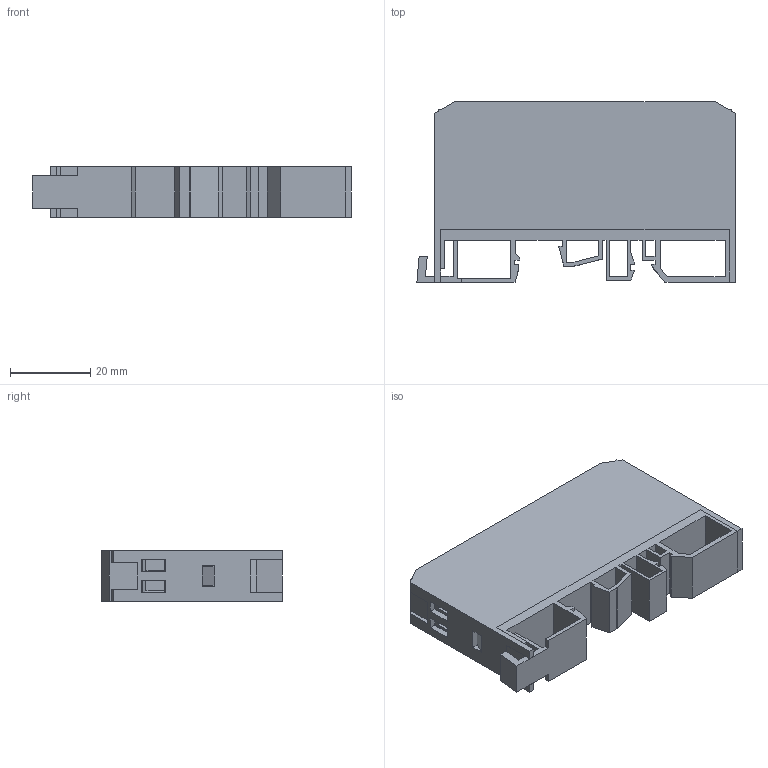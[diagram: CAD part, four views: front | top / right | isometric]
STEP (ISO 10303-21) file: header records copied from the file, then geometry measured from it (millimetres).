
FILE_DESCRIPTION(('SolidDesigner STEP Export'),'2;1');
FILE_NAME('2942962.stp','2014-03-26T10:37:38',(''),(''),'Creo Elements/Direct Modeling STEP processor for AP214 (Solid Model)','Creo Elements/Direct Modeling 18.1 06-May-2012 (C) Parametric Technology GmbH','');
FILE_SCHEMA(('AUTOMOTIVE_DESIGN { 1 0 10303 214 1 1 1 1 }'));
Length unit declared in the file: millimetre
Products named in the file (5): mkds_3-2_H.Select; EMG_12_UK_FUSS_75MM_H.Select; EMG_12_GEH._75MM_H.Select; EMG_12-LG_H.Select; 2942962
Assembly tree (5 placements, depth 3):
  2942962
    EMG_12-LG_H.Select
      EMG_12_GEH._75MM_H.Select
      EMG_12_UK_FUSS_75MM_H.Select
    mkds_3-2_H.Select  x2
Bounding box: 79.44 x 45 x 12.5 mm (x, y, z)
Volume: 14061.5 mm3; surface area: 23588 mm2
Topology: 4 solids, 4 shells, 402 faces, 1141 edges, 762 vertices
Faces by surface type: plane 354, cylinder 48
Entity records: 10667 total; most frequent: ORIENTED_EDGE 1786, CARTESIAN_POINT 1736, DIRECTION 1480, EDGE_CURVE 893, VECTOR 796, LINE 796, VERTEX_POINT 598, EDGE_LOOP 351
